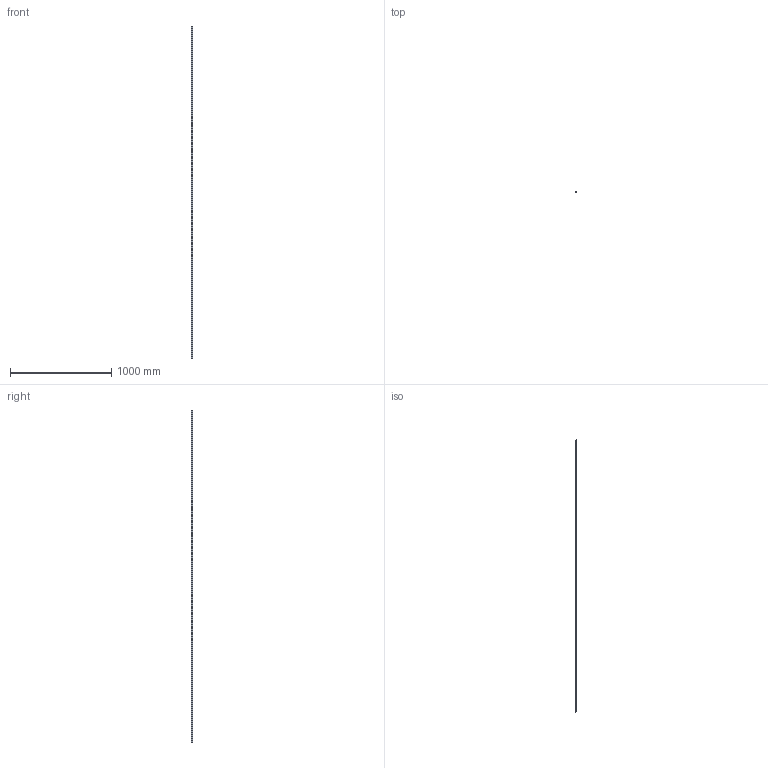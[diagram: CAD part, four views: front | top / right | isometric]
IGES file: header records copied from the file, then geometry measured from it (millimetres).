
Start section: SolidWorks IGES file using analytic representation for surfaces
Global section: file name: C:\Users\IanO\Desktop\L1016_v2\L1016.BL15_v2\L1016.BL15_v2_20190611_IGES\L1016.BL15-3280.igs; native system: SolidWorks 2017; preprocessor: SolidWorks 2017; author: IanO; date: 190612.123545; units: millimetre
Bounding box: 15 x 13 x 3280 mm (x, y, z)
Surface area: 200277.3 mm2 (no closed solid volume)
Topology: 0 solids, 0 shells, 301 faces, 8072 edges, 8072 vertices
Faces by surface type: revolution 224, bspline 77
